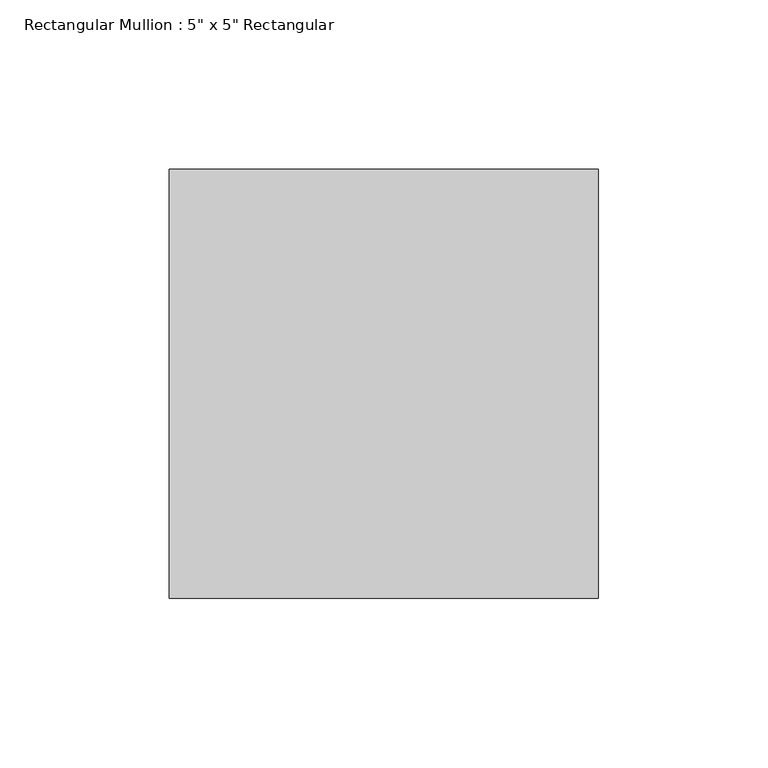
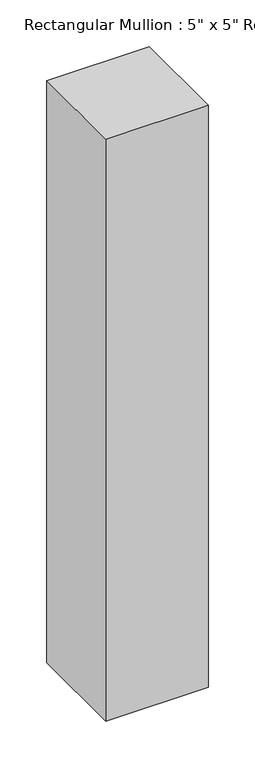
"""IFC4 building model written with IfcOpenShell, lengths in millimetres: member geometry."""

from ifc_helpers import new_model, si_unit, frame, origin, place, context, project, spatial, polyline, outline, extrude, source, transform, mapped, element, save


def member_892852e1(model_context):
    return source(origin(), model_context, "Body", "SweptSolid", [
        extrude(outline(polyline([(0.0, 63.5), (0.0, -63.5), (-127.0, -63.5), (-127.0, 63.5), (0.0, 63.5)])), frame((0.0, 0.0, -762.0), z_axis=(0.0, 0.0, 1.0), x_axis=(1.0, 0.0, 0.0)), (0.0, 0.0, 1.0), 762.0),
    ])


if __name__ == "__main__":
    model = new_model("IFC4")
    model_context = context("Model", 3, world=origin())
    ifc_project = project(units=[si_unit("LENGTHUNIT", "METRE", prefix="MILLI")], contexts=[model_context])
    site = spatial("IfcSite", under=ifc_project)
    building = spatial("IfcBuilding", under=site)
    placement = place(None, origin())
    member_shape = member_892852e1(model_context)
    element("IfcMember", 1, ObjectType="Rectangular Mullion : 5\" x 5\" Rectangular", at=placement, inside=building, context=model_context, shape_type="MappedRepresentation", body=[
        mapped(member_shape, transform((0.0, 0.0, 0.0), x_axis=(1.0, 0.0, 0.0), y_axis=(0.0, 1.0, 0.0), z_axis=(0.0, 0.0, 1.0))),
    ])
    save(model, "model.ifc")
